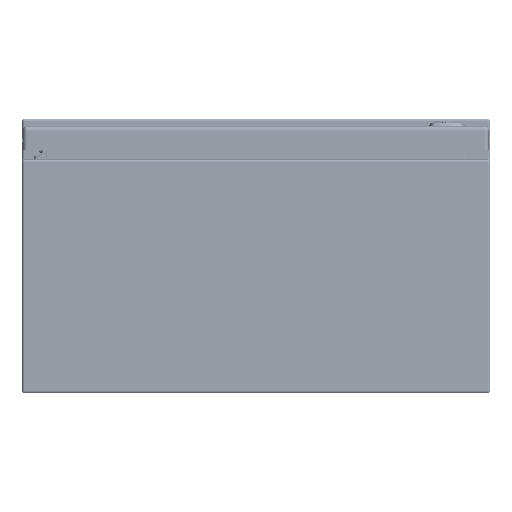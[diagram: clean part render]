
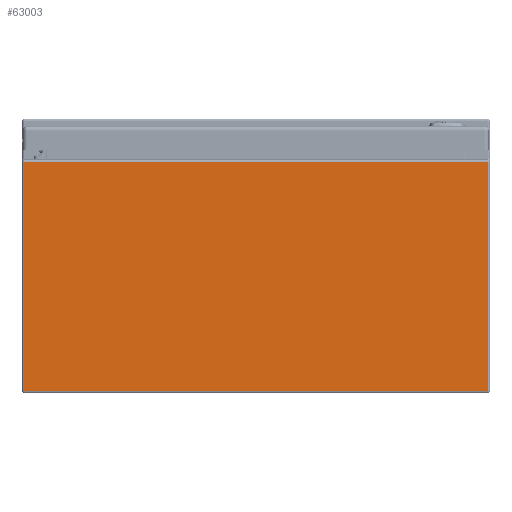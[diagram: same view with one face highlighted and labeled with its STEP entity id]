
A CAD part, front view. The second image highlights one B-rep face of the part: STEP entity #63003.
In plain terms, the highlighted planar face has unit normal (0, -1, 0).
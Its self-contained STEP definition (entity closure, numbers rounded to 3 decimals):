
#6187=LINE('',#86430,#10366);
#6188=LINE('',#86440,#10367);
#6189=LINE('',#86444,#10368);
#6190=LINE('',#86445,#10369);
#10366=VECTOR('',#72593,0.394);
#10367=VECTOR('',#72608,0.394);
#10368=VECTOR('',#72613,0.394);
#10369=VECTOR('',#72614,0.394);
#15435=FACE_OUTER_BOUND('',#19201,.T.);
#19201=EDGE_LOOP('',(#41828,#41829,#41830,#41831));
#25090=VERTEX_POINT('',#86423);
#25093=VERTEX_POINT('',#86428);
#25095=VERTEX_POINT('',#86439);
#25096=VERTEX_POINT('',#86443);
#31639=EDGE_CURVE('',#25093,#25090,#6187,.T.);
#31644=EDGE_CURVE('',#25095,#25090,#6188,.T.);
#31646=EDGE_CURVE('',#25093,#25096,#6189,.T.);
#31647=EDGE_CURVE('',#25095,#25096,#6190,.T.);
#41828=ORIENTED_EDGE('',*,*,#31639,.F.);
#41829=ORIENTED_EDGE('',*,*,#31646,.T.);
#41830=ORIENTED_EDGE('',*,*,#31647,.F.);
#41831=ORIENTED_EDGE('',*,*,#31644,.T.);
#61503=PLANE('',#67616);
#63003=ADVANCED_FACE('',(#15435),#61503,.F.);
#67616=AXIS2_PLACEMENT_3D('',#86442,#72611,#72612);
#72593=DIRECTION('',(0.,0.,1.));
#72608=DIRECTION('',(-1.,0.,0.));
#72611=DIRECTION('center_axis',(0.,1.,0.));
#72612=DIRECTION('ref_axis',(0.,0.,1.));
#72613=DIRECTION('',(1.,0.,0.));
#72614=DIRECTION('',(0.,0.,-1.));
#86423=CARTESIAN_POINT('',(-7.916,-12.,7.916));
#86428=CARTESIAN_POINT('',(-7.916,-12.,0.084));
#86430=CARTESIAN_POINT('',(-7.916,-12.,4.));
#86439=CARTESIAN_POINT('',(7.916,-12.,7.916));
#86440=CARTESIAN_POINT('',(-3.963,-12.,7.916));
#86442=CARTESIAN_POINT('Origin',(0.,-12.,4.));
#86443=CARTESIAN_POINT('',(7.916,-12.,0.084));
#86444=CARTESIAN_POINT('',(-8.,-12.,0.084));
#86445=CARTESIAN_POINT('',(7.916,-12.,4.));
